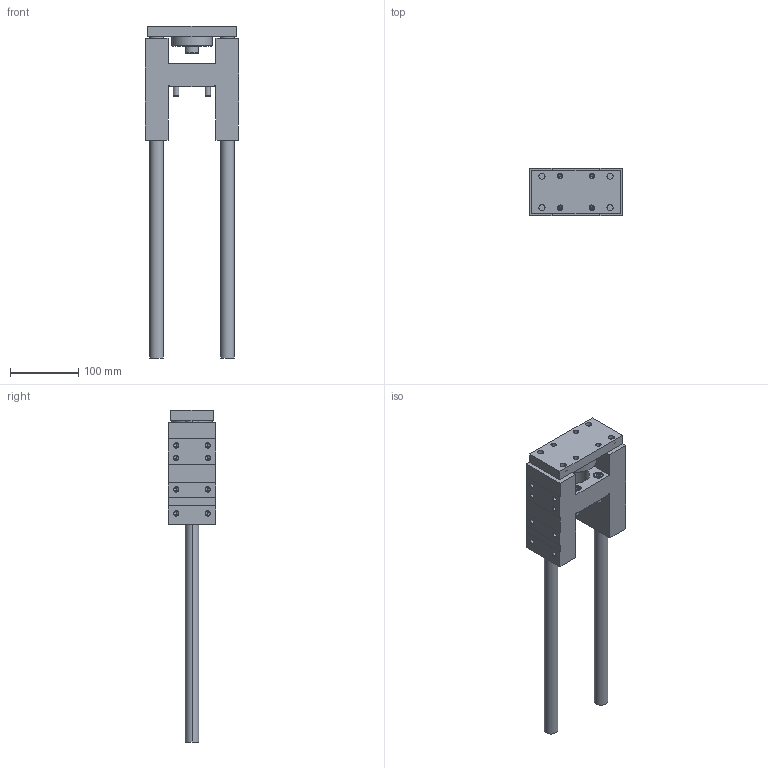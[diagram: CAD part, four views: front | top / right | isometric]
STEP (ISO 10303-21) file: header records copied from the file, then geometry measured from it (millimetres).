
FILE_DESCRIPTION (( 'STEP AP203' ), '1' );
FILE_NAME ('GB50-300.STEP', '2020-04-24T13:16:15', ( '' ), ( '' ), 'SwSTEP 2.0', 'SolidWorks 2019', '' );
FILE_SCHEMA (( 'CONFIG_CONTROL_DESIGN' ));
Length unit declared in the file: millimetre
Products named in the file (1): GB50-300
Bounding box: 137 x 70 x 488 mm (x, y, z)
Volume: 1165454.9 mm3; surface area: 206183.6 mm2
Topology: 6 solids, 6 shells, 377 faces, 852 edges, 480 vertices
Faces by surface type: cone 154, plane 117, cylinder 106
Entity records: 10863 total; most frequent: CARTESIAN_POINT 2350, DIRECTION 1902, ORIENTED_EDGE 1624, EDGE_CURVE 812, AXIS2_PLACEMENT_3D 744, VERTEX_POINT 480, EDGE_LOOP 440, LINE 414
